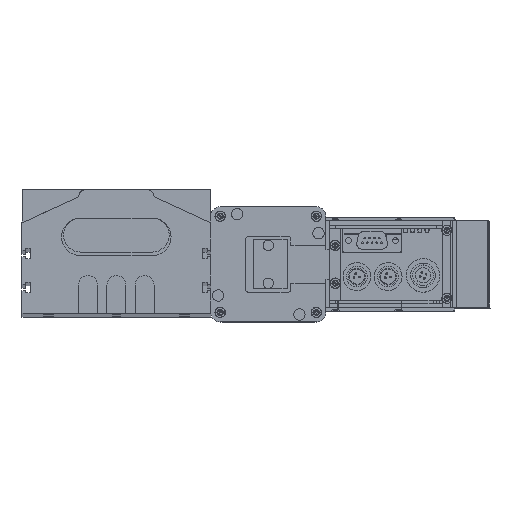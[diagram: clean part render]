
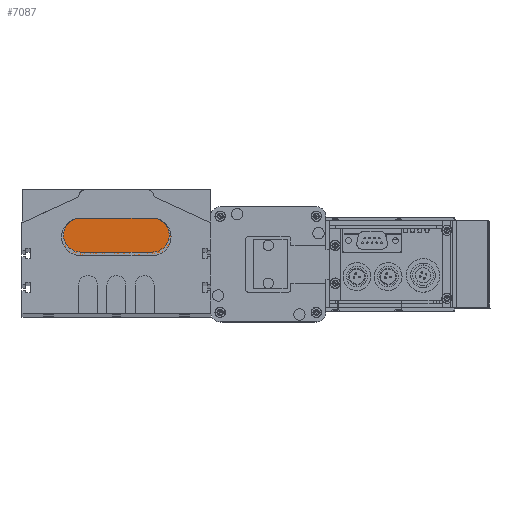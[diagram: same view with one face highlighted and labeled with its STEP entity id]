
A CAD part, top view. The second image highlights one B-rep face of the part: STEP entity #7087.
In plain terms, the highlighted planar face has unit normal (0, 0, 1).
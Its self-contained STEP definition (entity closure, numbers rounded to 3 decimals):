
#177 = VERTEX_POINT ( 'NONE', #5143 ) ;
#210 = EDGE_CURVE ( 'NONE', #227, #177, #5227, .T. ) ;
#227 = VERTEX_POINT ( 'NONE', #5201 ) ;
#326 = EDGE_CURVE ( 'NONE', #435, #227, #5401, .T. ) ;
#435 = VERTEX_POINT ( 'NONE', #5615 ) ;
#516 = VERTEX_POINT ( 'NONE', #5740 ) ;
#539 = VERTEX_POINT ( 'NONE', #5731 ) ;
#561 = EDGE_CURVE ( 'NONE', #177, #516, #5810, .T. ) ;
#5143 = CARTESIAN_POINT ( 'NONE',  ( 0., 0., 10. ) ) ;
#5201 = CARTESIAN_POINT ( 'NONE',  ( -10., 10., 10. ) ) ;
#5218 = DIRECTION ( 'NONE',  ( 1., 0., 0. ) ) ;
#5219 = DIRECTION ( 'NONE',  ( 0., 0., 1. ) ) ;
#5220 = AXIS2_PLACEMENT_3D ( 'NONE', #5228, #5219, #5218 ) ;
#5227 = CIRCLE ( 'NONE', #5220, 10. ) ;
#5228 = CARTESIAN_POINT ( 'NONE',  ( 0., 10., 10. ) ) ;
#5381 = DIRECTION ( 'NONE',  ( 1., 0., 0. ) ) ;
#5382 = DIRECTION ( 'NONE',  ( 0., 0., 1. ) ) ;
#5389 = CARTESIAN_POINT ( 'NONE',  ( 0., 10., 10. ) ) ;
#5401 = CIRCLE ( 'NONE', #5412, 10. ) ;
#5412 = AXIS2_PLACEMENT_3D ( 'NONE', #5389, #5382, #5381 ) ;
#5615 = CARTESIAN_POINT ( 'NONE',  ( 0., 20., 10. ) ) ;
#5731 = CARTESIAN_POINT ( 'NONE',  ( 38., 20., 10. ) ) ;
#5740 = CARTESIAN_POINT ( 'NONE',  ( 38., 0., 10. ) ) ;
#5807 = DIRECTION ( 'NONE',  ( 1., 0., 0. ) ) ;
#5808 = VECTOR ( 'NONE', #5807, 1000. ) ;
#5809 = CARTESIAN_POINT ( 'NONE',  ( 0., 0., 10. ) ) ;
#5810 = LINE ( 'NONE', #5809, #5808 ) ;
#6998 = EDGE_CURVE ( 'NONE', #516, #539, #15582, .T. ) ;
#7009 = ORIENTED_EDGE ( 'NONE', *, *, #7144, .T. ) ;
#7017 = ORIENTED_EDGE ( 'NONE', *, *, #6998, .T. ) ;
#7081 = ORIENTED_EDGE ( 'NONE', *, *, #210, .T. ) ;
#7086 = ORIENTED_EDGE ( 'NONE', *, *, #326, .T. ) ;
#7087 = ADVANCED_FACE ( 'NONE', ( #15710 ), #15716, .T. ) ;
#7143 = EDGE_LOOP ( 'NONE', ( #7086, #7081, #24189, #7017, #7009 ) ) ;
#7144 = EDGE_CURVE ( 'NONE', #539, #435, #15835, .T. ) ;
#15523 = CARTESIAN_POINT ( 'NONE',  ( 38., 10., 10. ) ) ;
#15566 = DIRECTION ( 'NONE',  ( -1., 0., 0. ) ) ;
#15567 = DIRECTION ( 'NONE',  ( 0., 0., 1. ) ) ;
#15568 = AXIS2_PLACEMENT_3D ( 'NONE', #15523, #15567, #15566 ) ;
#15582 = CIRCLE ( 'NONE', #15568, 10. ) ;
#15665 = AXIS2_PLACEMENT_3D ( 'NONE', #15755, #15754, #15753 ) ;
#15710 = FACE_OUTER_BOUND ( 'NONE', #7143, .T. ) ;
#15716 = PLANE ( 'NONE',  #15665 ) ;
#15753 = DIRECTION ( 'NONE',  ( 1., 0., 0. ) ) ;
#15754 = DIRECTION ( 'NONE',  ( 0., 0., 1. ) ) ;
#15755 = CARTESIAN_POINT ( 'NONE',  ( 0., 10., 10. ) ) ;
#15832 = DIRECTION ( 'NONE',  ( -1., 0., 0. ) ) ;
#15833 = VECTOR ( 'NONE', #15832, 1000. ) ;
#15834 = CARTESIAN_POINT ( 'NONE',  ( 0., 20., 10. ) ) ;
#15835 = LINE ( 'NONE', #15834, #15833 ) ;
#24189 = ORIENTED_EDGE ( 'NONE', *, *, #561, .T. ) ;
